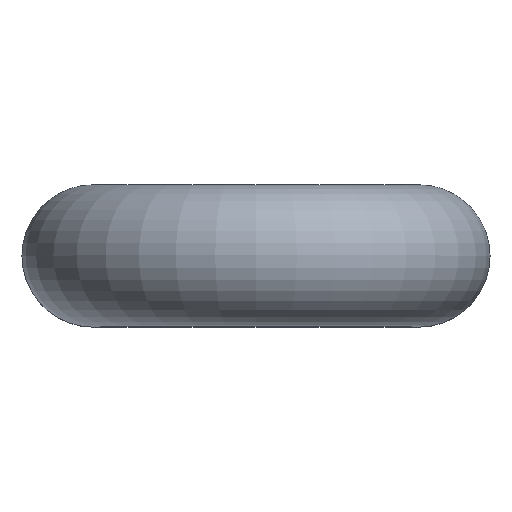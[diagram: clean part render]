
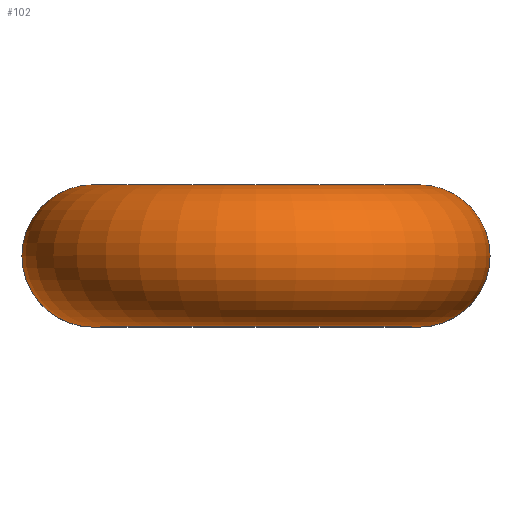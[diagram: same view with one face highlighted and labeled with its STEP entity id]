
A CAD part, top view. The second image highlights one B-rep face of the part: STEP entity #102.
In plain terms, the highlighted toroidal (fillet/blend) face has major radius 9.2 mm and minor radius 4 mm.
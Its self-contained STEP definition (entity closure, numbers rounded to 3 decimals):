
#24 = VERTEX_POINT('',#25);
#25 = CARTESIAN_POINT('',(-2.893,0.,747.117));
#32 = CYLINDRICAL_SURFACE('',#33,4.);
#33 = AXIS2_PLACEMENT_3D('',#34,#35,#36);
#34 = CARTESIAN_POINT('',(-6.893,0.,731.117));
#35 = DIRECTION('',(0.,0.,1.));
#36 = DIRECTION('',(1.,0.,-0.));
#50 = EDGE_CURVE('',#24,#24,#51,.T.);
#51 = SURFACE_CURVE('',#52,(#57,#64),.PCURVE_S1.);
#52 = CIRCLE('',#53,4.);
#53 = AXIS2_PLACEMENT_3D('',#54,#55,#56);
#54 = CARTESIAN_POINT('',(-6.893,0.,747.117));
#55 = DIRECTION('',(0.,0.,1.));
#56 = DIRECTION('',(1.,0.,-0.));
#57 = PCURVE('',#32,#58);
#58 = DEFINITIONAL_REPRESENTATION('',(#59),#63);
#59 = LINE('',#60,#61);
#60 = CARTESIAN_POINT('',(0.,16.));
#61 = VECTOR('',#62,1.);
#62 = DIRECTION('',(1.,0.));
#63 = ( GEOMETRIC_REPRESENTATION_CONTEXT(2) 
PARAMETRIC_REPRESENTATION_CONTEXT() REPRESENTATION_CONTEXT('2D SPACE',''
  ) );
#64 = PCURVE('',#65,#70);
#65 = TOROIDAL_SURFACE('',#66,9.2,4.);
#66 = AXIS2_PLACEMENT_3D('',#67,#68,#69);
#67 = CARTESIAN_POINT('',(2.307,0.,747.117));
#68 = DIRECTION('',(0.,1.,-0.));
#69 = DIRECTION('',(-1.,0.,0.));
#70 = DEFINITIONAL_REPRESENTATION('',(#71),#74);
#71 = B_SPLINE_CURVE_WITH_KNOTS('',1,(#72,#73),.UNSPECIFIED.,.F.,.F.,(2,
    2),(0.,6.283),.PIECEWISE_BEZIER_KNOTS.);
#72 = CARTESIAN_POINT('',(0.,9.425));
#73 = CARTESIAN_POINT('',(0.,3.142));
#74 = ( GEOMETRIC_REPRESENTATION_CONTEXT(2) 
PARAMETRIC_REPRESENTATION_CONTEXT() REPRESENTATION_CONTEXT('2D SPACE',''
  ) );
#102 = ADVANCED_FACE('',(#103),#65,.T.);
#103 = FACE_BOUND('',#104,.T.);
#104 = EDGE_LOOP('',(#105,#128,#154,#155));
#105 = ORIENTED_EDGE('',*,*,#106,.T.);
#106 = EDGE_CURVE('',#24,#107,#109,.T.);
#107 = VERTEX_POINT('',#108);
#108 = CARTESIAN_POINT('',(7.507,0.,747.117));
#109 = SEAM_CURVE('',#110,(#115,#121),.PCURVE_S1.);
#110 = CIRCLE('',#111,5.2);
#111 = AXIS2_PLACEMENT_3D('',#112,#113,#114);
#112 = CARTESIAN_POINT('',(2.307,0.,747.117));
#113 = DIRECTION('',(0.,1.,-0.));
#114 = DIRECTION('',(-1.,0.,0.));
#115 = PCURVE('',#65,#116);
#116 = DEFINITIONAL_REPRESENTATION('',(#117),#120);
#117 = B_SPLINE_CURVE_WITH_KNOTS('',1,(#118,#119),.UNSPECIFIED.,.F.,.F.,
  (2,2),(0.,3.142),.PIECEWISE_BEZIER_KNOTS.);
#118 = CARTESIAN_POINT('',(0.,3.142));
#119 = CARTESIAN_POINT('',(3.142,3.142));
#120 = ( GEOMETRIC_REPRESENTATION_CONTEXT(2) 
PARAMETRIC_REPRESENTATION_CONTEXT() REPRESENTATION_CONTEXT('2D SPACE',''
  ) );
#121 = PCURVE('',#65,#122);
#122 = DEFINITIONAL_REPRESENTATION('',(#123),#127);
#123 = LINE('',#124,#125);
#124 = CARTESIAN_POINT('',(0.,9.425));
#125 = VECTOR('',#126,1.);
#126 = DIRECTION('',(1.,0.));
#127 = ( GEOMETRIC_REPRESENTATION_CONTEXT(2) 
PARAMETRIC_REPRESENTATION_CONTEXT() REPRESENTATION_CONTEXT('2D SPACE',''
  ) );
#128 = ORIENTED_EDGE('',*,*,#129,.T.);
#129 = EDGE_CURVE('',#107,#107,#130,.T.);
#130 = SURFACE_CURVE('',#131,(#136,#143),.PCURVE_S1.);
#131 = CIRCLE('',#132,4.);
#132 = AXIS2_PLACEMENT_3D('',#133,#134,#135);
#133 = CARTESIAN_POINT('',(11.507,0.,747.117));
#134 = DIRECTION('',(0.,0.,1.));
#135 = DIRECTION('',(1.,0.,0.));
#136 = PCURVE('',#65,#137);
#137 = DEFINITIONAL_REPRESENTATION('',(#138),#142);
#138 = LINE('',#139,#140);
#139 = CARTESIAN_POINT('',(3.142,0.));
#140 = VECTOR('',#141,1.);
#141 = DIRECTION('',(0.,1.));
#142 = ( GEOMETRIC_REPRESENTATION_CONTEXT(2) 
PARAMETRIC_REPRESENTATION_CONTEXT() REPRESENTATION_CONTEXT('2D SPACE',''
  ) );
#143 = PCURVE('',#144,#149);
#144 = CYLINDRICAL_SURFACE('',#145,4.);
#145 = AXIS2_PLACEMENT_3D('',#146,#147,#148);
#146 = CARTESIAN_POINT('',(11.507,0.,747.117));
#147 = DIRECTION('',(0.,0.,-1.));
#148 = DIRECTION('',(-1.,0.,0.));
#149 = DEFINITIONAL_REPRESENTATION('',(#150),#153);
#150 = B_SPLINE_CURVE_WITH_KNOTS('',1,(#151,#152),.UNSPECIFIED.,.F.,.F.,
  (2,2),(3.142,9.425),.PIECEWISE_BEZIER_KNOTS.);
#151 = CARTESIAN_POINT('',(6.283,0.));
#152 = CARTESIAN_POINT('',(0.,0.));
#153 = ( GEOMETRIC_REPRESENTATION_CONTEXT(2) 
PARAMETRIC_REPRESENTATION_CONTEXT() REPRESENTATION_CONTEXT('2D SPACE',''
  ) );
#154 = ORIENTED_EDGE('',*,*,#106,.F.);
#155 = ORIENTED_EDGE('',*,*,#50,.T.);
